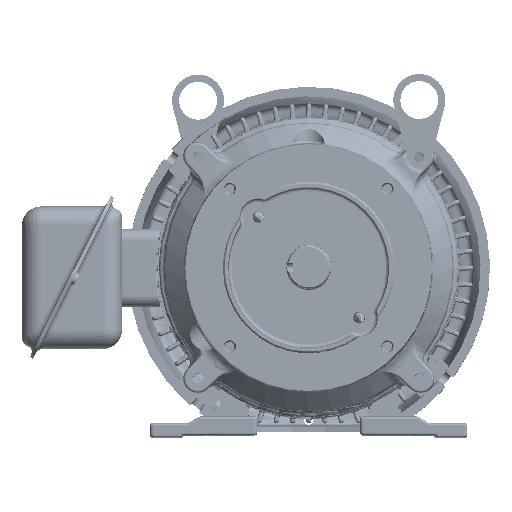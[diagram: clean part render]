
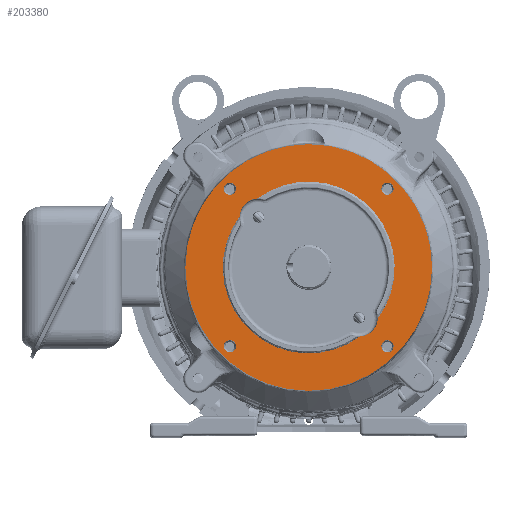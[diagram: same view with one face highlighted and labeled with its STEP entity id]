
A CAD part, top view. The second image highlights one B-rep face of the part: STEP entity #203380.
In plain terms, the highlighted planar face has unit normal (0, 0, 1) as drawn and (0, 0, -1) by its records, which use the part's own axes.
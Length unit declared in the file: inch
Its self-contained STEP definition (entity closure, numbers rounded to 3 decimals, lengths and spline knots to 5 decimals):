
#188863=CARTESIAN_POINT('',(0.,0.,-1.641));
#188864=DIRECTION('',(0.,0.,-1.));
#188865=DIRECTION('',(0.,-1.,0.));
#188866=AXIS2_PLACEMENT_3D('',#188863,#188864,#188865);
#189049=CARTESIAN_POINT('',(0.,0.,-1.641));
#189050=DIRECTION('',(0.,0.,-1.));
#189051=DIRECTION('',(0.,1.,0.));
#189052=AXIS2_PLACEMENT_3D('',#189049,#189050,#189051);
#189054=CARTESIAN_POINT('',(1.32583,1.32583,-1.641));
#189055=DIRECTION('',(0.,0.,1.));
#189056=DIRECTION('',(0.999,0.048,0.));
#189057=AXIS2_PLACEMENT_3D('',#189054,#189055,#189056);
#189059=CARTESIAN_POINT('',(-1.32583,-1.32583,-1.641));
#189060=DIRECTION('',(0.,0.,1.));
#189061=DIRECTION('',(-0.999,-0.048,0.));
#189062=AXIS2_PLACEMENT_3D('',#189059,#189060,#189061);
#189064=CARTESIAN_POINT('',(-2.07713,2.07713,-1.641));
#189065=DIRECTION('',(0.,0.,1.));
#189066=DIRECTION('',(-0.707,0.707,0.));
#189067=AXIS2_PLACEMENT_3D('',#189064,#189065,#189066);
#189069=CARTESIAN_POINT('',(-2.07713,2.07713,-1.641));
#189070=DIRECTION('',(0.,0.,1.));
#189071=DIRECTION('',(0.707,-0.707,0.));
#189072=AXIS2_PLACEMENT_3D('',#189069,#189070,#189071);
#189074=CARTESIAN_POINT('',(-2.07713,-2.07713,-1.641));
#189075=DIRECTION('',(0.,0.,1.));
#189076=DIRECTION('',(-0.707,-0.707,0.));
#189077=AXIS2_PLACEMENT_3D('',#189074,#189075,#189076);
#189079=CARTESIAN_POINT('',(-2.07713,-2.07713,-1.641));
#189080=DIRECTION('',(0.,0.,1.));
#189081=DIRECTION('',(0.707,0.707,0.));
#189082=AXIS2_PLACEMENT_3D('',#189079,#189080,#189081);
#189084=CARTESIAN_POINT('',(2.07713,-2.07713,-1.641));
#189085=DIRECTION('',(0.,0.,1.));
#189086=DIRECTION('',(0.707,-0.707,0.));
#189087=AXIS2_PLACEMENT_3D('',#189084,#189085,#189086);
#189089=CARTESIAN_POINT('',(2.07713,-2.07713,-1.641));
#189090=DIRECTION('',(0.,0.,1.));
#189091=DIRECTION('',(-0.707,0.707,0.));
#189092=AXIS2_PLACEMENT_3D('',#189089,#189090,#189091);
#189094=CARTESIAN_POINT('',(2.07713,2.07713,-1.641));
#189095=DIRECTION('',(0.,0.,1.));
#189096=DIRECTION('',(0.707,0.707,0.));
#189097=AXIS2_PLACEMENT_3D('',#189094,#189095,#189096);
#189099=CARTESIAN_POINT('',(2.07713,2.07713,-1.641));
#189100=DIRECTION('',(0.,0.,1.));
#189101=DIRECTION('',(-0.707,-0.707,0.));
#189102=AXIS2_PLACEMENT_3D('',#189099,#189100,#189101);
#189148=CARTESIAN_POINT('',(0.,0.,-1.641));
#189149=DIRECTION('',(0.,0.,1.));
#189150=DIRECTION('',(0.596,0.803,0.));
#189151=AXIS2_PLACEMENT_3D('',#189148,#189149,#189150);
#189153=CARTESIAN_POINT('',(0.,0.,-1.641));
#189154=DIRECTION('',(0.,0.,1.));
#189155=DIRECTION('',(-0.596,-0.803,0.));
#189156=AXIS2_PLACEMENT_3D('',#189153,#189154,#189155);
#198015=CARTESIAN_POINT('',(0.,3.25175,-1.641));
#198016=CARTESIAN_POINT('',(0.,-3.25175,-1.641));
#198017=VERTEX_POINT('',#198015);
#198018=VERTEX_POINT('',#198016);
#198027=CARTESIAN_POINT('',(1.82022,1.34964,-1.641));
#198028=CARTESIAN_POINT('',(1.34964,1.82022,-1.641));
#198029=VERTEX_POINT('',#198027);
#198030=VERTEX_POINT('',#198028);
#198043=CARTESIAN_POINT('',(-1.82022,-1.34964,-1.641));
#198044=CARTESIAN_POINT('',(-1.34964,-1.82022,-1.641));
#198045=VERTEX_POINT('',#198043);
#198046=VERTEX_POINT('',#198044);
#198057=CARTESIAN_POINT('',(-2.1914,2.1914,-1.641));
#198058=CARTESIAN_POINT('',(-1.96285,1.96285,-1.641));
#198059=VERTEX_POINT('',#198057);
#198060=VERTEX_POINT('',#198058);
#198061=CARTESIAN_POINT('',(-2.1914,-2.1914,-1.641));
#198062=CARTESIAN_POINT('',(-1.96285,-1.96285,-1.641));
#198063=VERTEX_POINT('',#198061);
#198064=VERTEX_POINT('',#198062);
#198065=CARTESIAN_POINT('',(2.1914,-2.1914,-1.641));
#198066=CARTESIAN_POINT('',(1.96285,-1.96285,-1.641));
#198067=VERTEX_POINT('',#198065);
#198068=VERTEX_POINT('',#198066);
#198069=CARTESIAN_POINT('',(2.1914,2.1914,-1.641));
#198070=CARTESIAN_POINT('',(1.96285,1.96285,-1.641));
#198071=VERTEX_POINT('',#198069);
#198072=VERTEX_POINT('',#198070);
#203337=CARTESIAN_POINT('',(0.,0.,-1.641));
#203338=DIRECTION('',(0.,0.,1.));
#203339=DIRECTION('',(0.,1.,0.));
#203340=AXIS2_PLACEMENT_3D('',#203337,#203338,#203339);
#203341=PLANE('',#203340);
#203342=ORIENTED_EDGE('',*,*,#202804,.F.);
#203343=ORIENTED_EDGE('',*,*,#202865,.F.);
#203344=EDGE_LOOP('',(#203342,#203343));
#203345=FACE_OUTER_BOUND('',#203344,.F.);
#203347=ORIENTED_EDGE('',*,*,#203346,.F.);
#203349=ORIENTED_EDGE('',*,*,#203348,.F.);
#203351=ORIENTED_EDGE('',*,*,#203350,.F.);
#203353=ORIENTED_EDGE('',*,*,#203352,.F.);
#203354=EDGE_LOOP('',(#203347,#203349,#203351,#203353));
#203355=FACE_BOUND('',#203354,.F.);
#203357=ORIENTED_EDGE('',*,*,#203356,.F.);
#203359=ORIENTED_EDGE('',*,*,#203358,.F.);
#203360=EDGE_LOOP('',(#203357,#203359));
#203361=FACE_BOUND('',#203360,.F.);
#203363=ORIENTED_EDGE('',*,*,#203362,.F.);
#203365=ORIENTED_EDGE('',*,*,#203364,.F.);
#203366=EDGE_LOOP('',(#203363,#203365));
#203367=FACE_BOUND('',#203366,.F.);
#203369=ORIENTED_EDGE('',*,*,#203368,.F.);
#203371=ORIENTED_EDGE('',*,*,#203370,.F.);
#203372=EDGE_LOOP('',(#203369,#203371));
#203373=FACE_BOUND('',#203372,.F.);
#203375=ORIENTED_EDGE('',*,*,#203374,.F.);
#203377=ORIENTED_EDGE('',*,*,#203376,.F.);
#203378=EDGE_LOOP('',(#203375,#203377));
#203379=FACE_BOUND('',#203378,.F.);
#203380=ADVANCED_FACE('',(#203345,#203355,#203361,#203367,#203373,#203379),
#203341,.F.);
#188867=CIRCLE('',#188866,3.25175);
#189053=CIRCLE('',#189052,3.25175);
#189058=CIRCLE('',#189057,0.49497);
#189063=CIRCLE('',#189062,0.49497);
#189068=CIRCLE('',#189067,0.16161);
#189073=CIRCLE('',#189072,0.16161);
#189078=CIRCLE('',#189077,0.16161);
#189083=CIRCLE('',#189082,0.16161);
#189088=CIRCLE('',#189087,0.16161);
#189093=CIRCLE('',#189092,0.16161);
#189098=CIRCLE('',#189097,0.16161);
#189103=CIRCLE('',#189102,0.16161);
#189152=CIRCLE('',#189151,2.266);
#189157=CIRCLE('',#189156,2.266);
#202804=EDGE_CURVE('',#198017,#198018,#189053,.T.);
#202865=EDGE_CURVE('',#198018,#198017,#188867,.T.);
#203346=EDGE_CURVE('',#198029,#198030,#189058,.T.);
#203348=EDGE_CURVE('',#198046,#198029,#189157,.T.);
#203350=EDGE_CURVE('',#198045,#198046,#189063,.T.);
#203352=EDGE_CURVE('',#198030,#198045,#189152,.T.);
#203356=EDGE_CURVE('',#198059,#198060,#189068,.T.);
#203358=EDGE_CURVE('',#198060,#198059,#189073,.T.);
#203362=EDGE_CURVE('',#198063,#198064,#189078,.T.);
#203364=EDGE_CURVE('',#198064,#198063,#189083,.T.);
#203368=EDGE_CURVE('',#198067,#198068,#189088,.T.);
#203370=EDGE_CURVE('',#198068,#198067,#189093,.T.);
#203374=EDGE_CURVE('',#198071,#198072,#189098,.T.);
#203376=EDGE_CURVE('',#198072,#198071,#189103,.T.);
